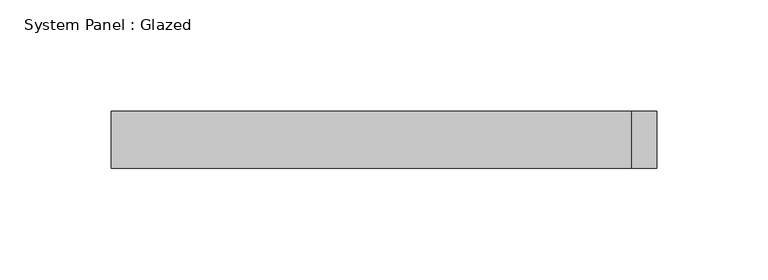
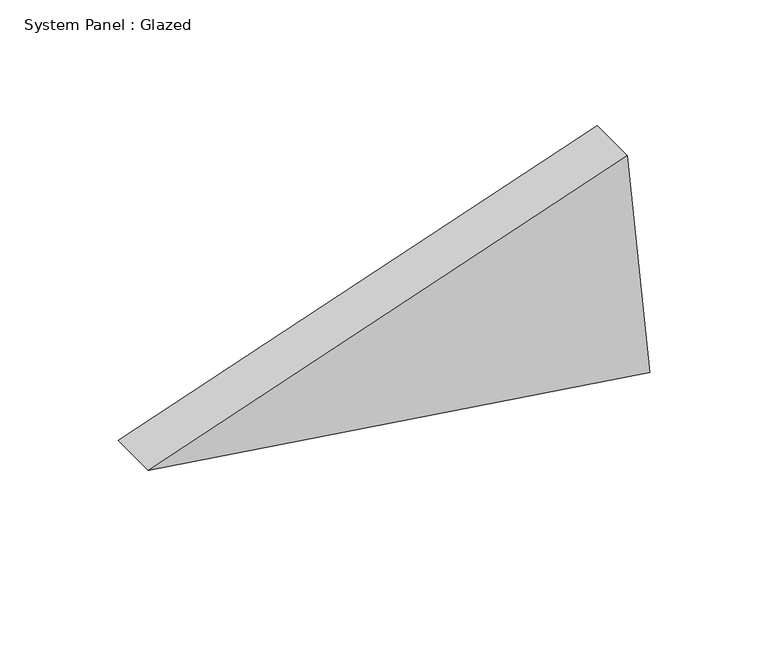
"""IFC4 building model written with IfcOpenShell, lengths in millimetres: plate geometry, System Panel : Glazed."""

from ifc_helpers import new_model, si_unit, frame, origin, place, context, project, spatial, polyline, outline, extrude, source, transform, mapped, element, save


def system_panel_glazed_1715f78c(model_context):
    return source(origin(), model_context, "Body", "SweptSolid", [
        extrude(outline(polyline([(35.2033413, -122.2976882), (0.0, 122.2976882), (115.8976043, 111.2715934), (35.2033413, -122.2976882)])), frame((0.0, 19.05, 0.0), z_axis=(0.0, 1.0, 0.0), x_axis=(0.0, 0.0, 1.0)), (0.0, 0.0, 1.0), 25.4),
    ])


if __name__ == "__main__":
    model = new_model("IFC4")
    model_context = context("Model", 3, world=origin())
    ifc_project = project(units=[si_unit("LENGTHUNIT", "METRE", prefix="MILLI")], contexts=[model_context])
    site = spatial("IfcSite", under=ifc_project)
    building = spatial("IfcBuilding", under=site)
    placement = place(None, origin())
    system_panel_glazed_shape = system_panel_glazed_1715f78c(model_context)
    element("IfcPlate", 1, ObjectType="System Panel : Glazed", at=placement, inside=building, context=model_context, shape_type="MappedRepresentation", body=[
        mapped(system_panel_glazed_shape, transform((0.0, 0.0, 0.0), x_axis=(1.0, 0.0, 0.0), y_axis=(0.0, 1.0, 0.0), z_axis=(0.0, 0.0, 1.0))),
    ])
    save(model, "model.ifc")
